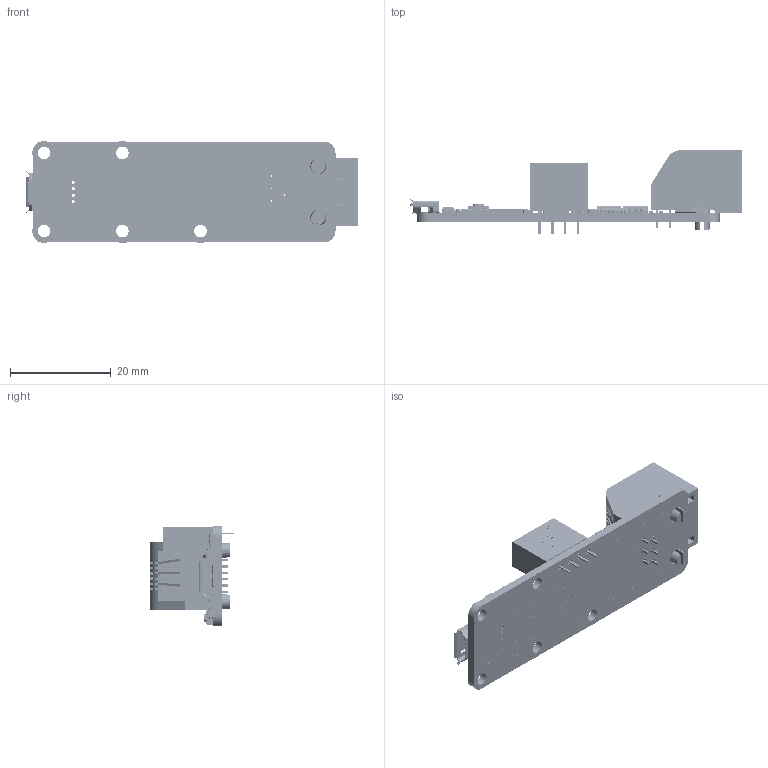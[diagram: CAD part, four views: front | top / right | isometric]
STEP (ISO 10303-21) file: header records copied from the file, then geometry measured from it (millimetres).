
FILE_DESCRIPTION (( 'STEP AP214' ), '1' );
FILE_NAME ('RS232MK1.step', '2014-09-27T05:35:37', ( 'martinm' ), ( 'Yoctopuce' ), 'SwSTEP 2.0', 'SolidWorks 2008', '' );
FILE_SCHEMA (( 'AUTOMOTIVE_DESIGN' ));
Length unit declared in the file: millimetre
Products named in the file (29): C0603C106M9PACTU; MCP1703T-3302E_CB; ZX62-B-5PA(11); MAX232EIPWR_Défaut; CRCW0603150RFKEA; CRCW06031R00FNEA; GRM188R61C225KE15D; CRCW0603100KJNEA; CRCW06031K00JNEB; CRCW0603100RJNEB; GRM188R60J105KA01D; 301-4.7K-RC; C2012X7R2E472KT5; C0805C105K4RACTU; RK73H1JTTD4702F; CRCW06031M00JNEB; GRM188R71E104KA01D; CRCW060310K0JNEB; SST25VF032B-80-4I-QAE; PIC24FJ256DA206-I_MR; Si8600AC-B-IS; 615_006_143_621_Défaut; ASMT-TGBM-NT502; FAN4010IL6X_F113; ROE-0505S; ASMT-TBBM-NP902; KMR211NGLFS; yoctors232isolatedOutLine_Défaut; RS232MK1
Assembly tree (56 placements, depth 2):
  RS232MK1
    MCP1703T-3302E_CB  x2
    CRCW0603100KJNEA  x2
    C0805C105K4RACTU  x2
    PIC24FJ256DA206-I_MR
    GRM188R71E104KA01D  x17
    301-4.7K-RC  x6
    ASMT-TGBM-NT502  x2
    GRM188R61C225KE15D  x2
    CRCW06031K00JNEB
    RK73H1JTTD4702F
    ROE-0505S
    CRCW0603100RJNEB
    CRCW060310K0JNEB
    Si8600AC-B-IS  x2
    GRM188R60J105KA01D  x2
    yoctors232isolatedOutLine_Défaut
    MAX232EIPWR_Défaut
    CRCW0603150RFKEA
    SST25VF032B-80-4I-QAE
    C2012X7R2E472KT5
    KMR211NGLFS
    C0603C106M9PACTU
    615_006_143_621_Défaut
    CRCW06031M00JNEB
    FAN4010IL6X_F113
    ASMT-TBBM-NP902
    CRCW06031R00FNEA
    ZX62-B-5PA(11)
Bounding box: 65.81 x 16.67 x 20.2 mm (x, y, z)
Volume: 4163.9 mm3; surface area: 7118 mm2
Topology: 76 solids, 76 shells, 8469 faces, 21808 edges, 14037 vertices
Faces by surface type: plane 5292, cylinder 1907, bspline 1057, sphere 200, torus 7, cone 6
Entity records: 312273 total; most frequent: CARTESIAN_POINT 87859, ORIENTED_EDGE 34438, DIRECTION 30072, EDGE_CURVE 17219, VECTOR 12510, LINE 12510, VERTEX_POINT 11357, AXIS2_PLACEMENT_3D 8781
